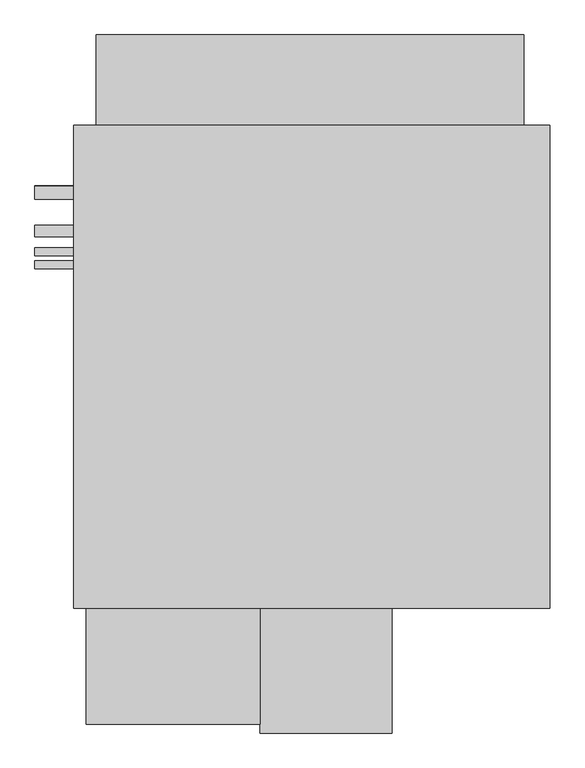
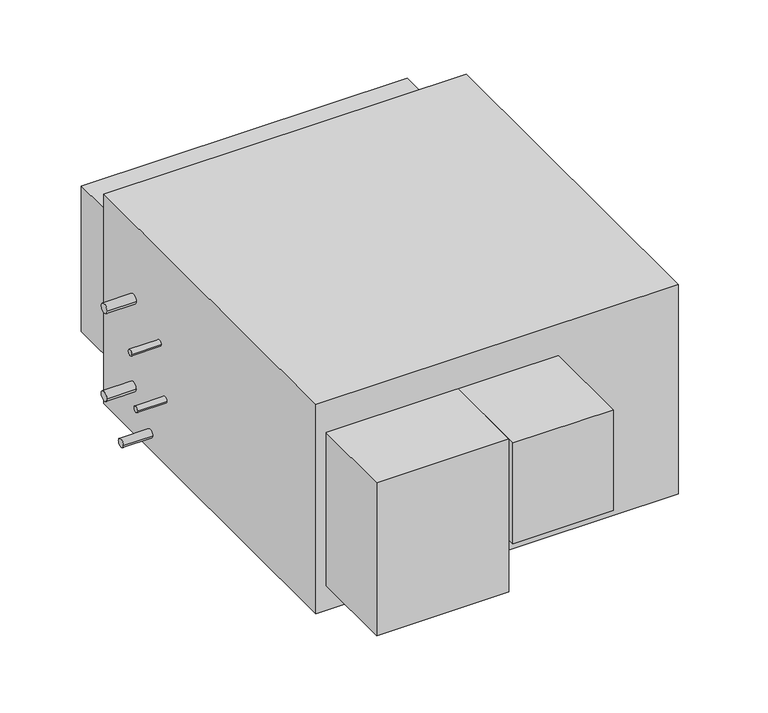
"""IFC4 building model written with IfcOpenShell, lengths in millimetres: proxy geometry, Horizontal_Direct_Drive_Blower_Coil_Unit_-_42DHA_-_CARRIER_-_4-Pipe_LH_2022 : Size 10 - 460v/60Hz/3Ph - 6/2 Coil."""

from ifc_helpers import new_model, si_unit, point, frame, frame_2d, origin, place, context, project, spatial, polyline, circle_curve, trimmed, segment, composite_curve, outline, extrude, source, transform, mapped, element, save


def mechanical_equipment_6f507d88(model_context):
    return source(origin(), model_context, "Body", "SweptSolid", [
        extrude(outline(composite_curve([segment(trimmed(circle_curve(frame_2d((358.775, -205.7657415)), 12.7), [point((371.475, -205.7657415))], [point((346.075, -205.7657415))], False, "CARTESIAN"), True, "CONTINUOUS"), segment(trimmed(circle_curve(frame_2d((358.775, -205.7657415)), 12.7), [point((346.075, -205.7657415))], [point((371.475, -205.7657415))], False, "CARTESIAN"), True, "CONTINUOUS")], self_intersect=False)), frame((-1143.0, 0.0, 0.0), z_axis=(1.0, 0.0, 0.0), x_axis=(0.0, 1.0, 0.0)), (0.0, 0.0, 1.0), 76.2),
        extrude(outline(composite_curve([segment(trimmed(circle_curve(frame_2d((359.642288, -447.0657415)), 12.7), [point((372.342288, -447.0657415))], [point((346.942288, -447.0657415))], False, "CARTESIAN"), True, "CONTINUOUS"), segment(trimmed(circle_curve(frame_2d((359.642288, -447.0657415)), 12.7), [point((346.942288, -447.0657415))], [point((372.342288, -447.0657415))], False, "CARTESIAN"), True, "CONTINUOUS")], self_intersect=False)), frame((-1143.0, 0.0, 0.0), z_axis=(1.0, 0.0, 0.0), x_axis=(0.0, 1.0, 0.0)), (0.0, 0.0, 1.0), 76.2),
        extrude(outline(composite_curve([segment(trimmed(circle_curve(frame_2d((283.442288, -529.6157415)), 11.1125), [point((294.554788, -529.6157415))], [point((272.329788, -529.6157415))], False, "CARTESIAN"), True, "CONTINUOUS"), segment(trimmed(circle_curve(frame_2d((283.442288, -529.6157415)), 11.1125), [point((272.329788, -529.6157415))], [point((294.554788, -529.6157415))], False, "CARTESIAN"), True, "CONTINUOUS")], self_intersect=False)), frame((-1143.0, 0.0, 0.0), z_axis=(1.0, 0.0, 0.0), x_axis=(0.0, 1.0, 0.0)), (0.0, 0.0, 1.0), 76.2),
        extrude(outline(composite_curve([segment(trimmed(circle_curve(frame_2d((242.167288, -256.5657415)), 7.9375), [point((250.104788, -256.5657415))], [point((234.229788, -256.5657415))], False, "CARTESIAN"), True, "CONTINUOUS"), segment(trimmed(circle_curve(frame_2d((242.167288, -256.5657415)), 7.9375), [point((234.229788, -256.5657415))], [point((250.104788, -256.5657415))], False, "CARTESIAN"), True, "CONTINUOUS")], self_intersect=False)), frame((-1143.0, 0.0, 0.0), z_axis=(1.0, 0.0, 0.0), x_axis=(0.0, 1.0, 0.0)), (0.0, 0.0, 1.0), 76.2),
        extrude(outline(composite_curve([segment(trimmed(circle_curve(frame_2d((216.767288, -396.5449971)), 7.9375), [point((224.704788, -396.5449971))], [point((208.829788, -396.5449971))], False, "CARTESIAN"), True, "CONTINUOUS"), segment(trimmed(circle_curve(frame_2d((216.767288, -396.5449971)), 7.9375), [point((208.829788, -396.5449971))], [point((224.704788, -396.5449971))], False, "CARTESIAN"), True, "CONTINUOUS")], self_intersect=False)), frame((-1143.0, 0.0, 0.0), z_axis=(1.0, 0.0, 0.0), x_axis=(0.0, 1.0, 0.0)), (0.0, 0.0, 1.0), 76.2),
        extrude(outline(polyline([(-127.0, 492.125), (-127.0, -460.375), (-1066.8, -460.375), (-1066.8, 492.125), (-127.0, 492.125)])), frame((0.0, 0.0, -574.0657415), z_axis=(0.0, 0.0, 1.0), x_axis=(1.0, 0.0, 0.0)), (0.0, 0.0, 1.0), 574.0657415),
        extrude(outline(polyline([(-698.5, -688.975), (-1041.4, -688.975), (-1041.4, -460.375), (-698.5, -460.375), (-698.5, -688.975)])), frame((0.0, 0.0, -504.2157415), z_axis=(0.0, 0.0, 1.0), x_axis=(1.0, 0.0, 0.0)), (0.0, 0.0, 1.0), 419.1),
        extrude(outline(polyline([(-1022.35, 669.925), (-177.8, 669.925), (-177.8, 492.125), (-1022.35, 492.125), (-1022.35, 669.925)])), frame((0.0, 0.0, -501.0407415), z_axis=(0.0, 0.0, 1.0), x_axis=(1.0, 0.0, 0.0)), (0.0, 0.0, 1.0), 400.05),
        extrude(outline(polyline([(-438.15, -706.4375), (-698.5, -706.4375), (-698.5, -460.375), (-438.15, -460.375), (-438.15, -706.4375)])), frame((0.0, 0.0, -361.3407415), z_axis=(0.0, 0.0, 1.0), x_axis=(1.0, 0.0, 0.0)), (0.0, 0.0, 1.0), 276.225),
    ])


if __name__ == "__main__":
    model = new_model("IFC4")
    model_context = context("Model", 3, world=origin())
    ifc_project = project(units=[si_unit("LENGTHUNIT", "METRE", prefix="MILLI")], contexts=[model_context])
    site = spatial("IfcSite", under=ifc_project)
    building = spatial("IfcBuilding", under=site)
    placement = place(None, origin())
    mechanical_equipment_shape = mechanical_equipment_6f507d88(model_context)
    element("IfcBuildingElementProxy", 1, Name="Horizontal_Direct_Drive_Blower_Coil_Unit_-_42DHA_-_CARRIER_-_4-Pipe_LH_2022 : Size 10 - 460v/60Hz/3Ph - 6/2 Coil", ObjectType="Horizontal_Direct_Drive_Blower_Coil_Unit_-_42DHA_-_CARRIER_-_4-Pipe_LH_2022 : Size 10 - 460v/60Hz/3Ph - 6/2 Coil", at=placement, inside=building, context=model_context, shape_type="MappedRepresentation", body=[
        mapped(mechanical_equipment_shape, transform((0.0, 0.0, 0.0), x_axis=(1.0, 0.0, 0.0), y_axis=(0.0, 1.0, 0.0), z_axis=(0.0, 0.0, 1.0))),
    ])
    save(model, "model.ifc")
